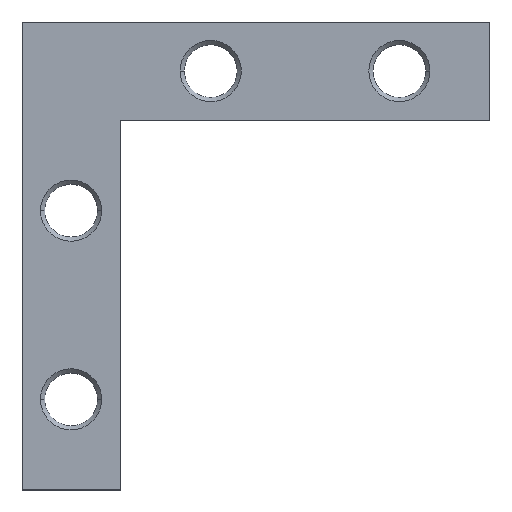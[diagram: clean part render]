
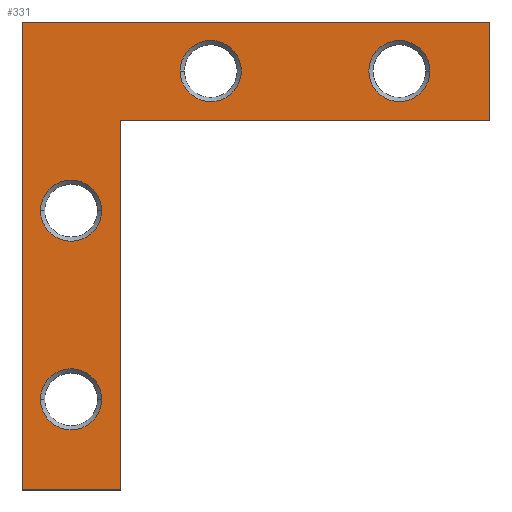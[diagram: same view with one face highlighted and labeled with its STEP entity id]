
A CAD part, top view. The second image highlights one B-rep face of the part: STEP entity #331.
In plain terms, the highlighted planar face has unit normal (0, 0, 1).
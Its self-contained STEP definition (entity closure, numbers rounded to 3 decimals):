
#2 = ORIENTED_EDGE ( 'NONE', *, *, #465, .T. ) ;
#13 = CARTESIAN_POINT ( 'NONE',  ( 0., -18.5, 6. ) ) ;
#19 = CARTESIAN_POINT ( 'NONE',  ( -6.5, -6.5, 6. ) ) ;
#26 = AXIS2_PLACEMENT_3D ( 'NONE', #418, #172, #483 ) ;
#28 = VECTOR ( 'NONE', #754, 1000. ) ;
#33 = DIRECTION ( 'NONE',  ( 1., 0., 0. ) ) ;
#37 = CARTESIAN_POINT ( 'NONE',  ( 14.45, 0., 6. ) ) ;
#38 = CARTESIAN_POINT ( 'NONE',  ( 18.5, 0., 6. ) ) ;
#46 = CARTESIAN_POINT ( 'NONE',  ( 47.55, 0., 6. ) ) ;
#47 = CARTESIAN_POINT ( 'NONE',  ( -6.5, -55.5, 6. ) ) ;
#64 = VERTEX_POINT ( 'NONE', #93 ) ;
#71 = DIRECTION ( 'NONE',  ( 0., -1., 0. ) ) ;
#72 = EDGE_LOOP ( 'NONE', ( #530, #516 ) ) ;
#93 = CARTESIAN_POINT ( 'NONE',  ( -6.5, -55.5, 6. ) ) ;
#99 = AXIS2_PLACEMENT_3D ( 'NONE', #605, #475, #412 ) ;
#100 = CARTESIAN_POINT ( 'NONE',  ( 43.5, 0., 6. ) ) ;
#121 = DIRECTION ( 'NONE',  ( 1., 0., 0. ) ) ;
#122 = DIRECTION ( 'NONE',  ( 0., 0., 1. ) ) ;
#134 = CARTESIAN_POINT ( 'NONE',  ( -6.5, -55.5, 6. ) ) ;
#142 = AXIS2_PLACEMENT_3D ( 'NONE', #457, #708, #166 ) ;
#144 = FACE_OUTER_BOUND ( 'NONE', #602, .T. ) ;
#149 = VERTEX_POINT ( 'NONE', #843 ) ;
#157 = VERTEX_POINT ( 'NONE', #839 ) ;
#166 = DIRECTION ( 'NONE',  ( 1., 0., 0. ) ) ;
#171 = EDGE_CURVE ( 'NONE', #716, #668, #592, .T. ) ;
#172 = DIRECTION ( 'NONE',  ( 0., 0., 1. ) ) ;
#174 = LINE ( 'NONE', #819, #816 ) ;
#176 = DIRECTION ( 'NONE',  ( 1., 0., 0. ) ) ;
#177 = DIRECTION ( 'NONE',  ( 1., 0., 0. ) ) ;
#183 = DIRECTION ( 'NONE',  ( 0., 0., 1. ) ) ;
#186 = EDGE_CURVE ( 'NONE', #502, #64, #700, .T. ) ;
#201 = ORIENTED_EDGE ( 'NONE', *, *, #430, .F. ) ;
#220 = VERTEX_POINT ( 'NONE', #789 ) ;
#238 = AXIS2_PLACEMENT_3D ( 'NONE', #550, #769, #177 ) ;
#249 = LINE ( 'NONE', #529, #28 ) ;
#253 = DIRECTION ( 'NONE',  ( 1., 0., 0. ) ) ;
#283 = ORIENTED_EDGE ( 'NONE', *, *, #618, .T. ) ;
#284 = AXIS2_PLACEMENT_3D ( 'NONE', #13, #307, #176 ) ;
#286 = CIRCLE ( 'NONE', #238, 4.05 ) ;
#288 = CIRCLE ( 'NONE', #390, 4.05 ) ;
#307 = DIRECTION ( 'NONE',  ( 0., 0., 1. ) ) ;
#324 = LINE ( 'NONE', #905, #876 ) ;
#327 = DIRECTION ( 'NONE',  ( 1., 0., 0. ) ) ;
#331 = ADVANCED_FACE ( 'NONE', ( #144, #883, #441, #378, #667 ), #368, .F. ) ;
#332 = CARTESIAN_POINT ( 'NONE',  ( 22.55, 0., 6. ) ) ;
#343 = CARTESIAN_POINT ( 'NONE',  ( 4.05, -18.5, 6. ) ) ;
#366 = ORIENTED_EDGE ( 'NONE', *, *, #171, .F. ) ;
#368 = PLANE ( 'NONE',  #645 ) ;
#378 = FACE_BOUND ( 'NONE', #552, .T. ) ;
#382 = EDGE_LOOP ( 'NONE', ( #847, #201 ) ) ;
#390 = AXIS2_PLACEMENT_3D ( 'NONE', #100, #391, #33 ) ;
#391 = DIRECTION ( 'NONE',  ( 0., 0., 1. ) ) ;
#402 = AXIS2_PLACEMENT_3D ( 'NONE', #687, #122, #327 ) ;
#409 = EDGE_CURVE ( 'NONE', #879, #149, #829, .T. ) ;
#412 = DIRECTION ( 'NONE',  ( 1., 0., 0. ) ) ;
#416 = EDGE_LOOP ( 'NONE', ( #734, #454 ) ) ;
#418 = CARTESIAN_POINT ( 'NONE',  ( 0., -43.5, 6. ) ) ;
#430 = EDGE_CURVE ( 'NONE', #790, #740, #908, .T. ) ;
#438 = VERTEX_POINT ( 'NONE', #772 ) ;
#441 = FACE_BOUND ( 'NONE', #72, .T. ) ;
#446 = EDGE_CURVE ( 'NONE', #668, #716, #545, .T. ) ;
#454 = ORIENTED_EDGE ( 'NONE', *, *, #504, .F. ) ;
#457 = CARTESIAN_POINT ( 'NONE',  ( 18.5, 0., 6. ) ) ;
#460 = ORIENTED_EDGE ( 'NONE', *, *, #805, .T. ) ;
#462 = DIRECTION ( 'NONE',  ( 0., 1., 0. ) ) ;
#465 = EDGE_CURVE ( 'NONE', #659, #502, #844, .T. ) ;
#473 = CARTESIAN_POINT ( 'NONE',  ( 4.05, -43.5, 6. ) ) ;
#475 = DIRECTION ( 'NONE',  ( 0., 0., 1. ) ) ;
#483 = DIRECTION ( 'NONE',  ( 1., 0., 0. ) ) ;
#493 = EDGE_CURVE ( 'NONE', #740, #790, #661, .T. ) ;
#494 = ORIENTED_EDGE ( 'NONE', *, *, #532, .T. ) ;
#495 = CARTESIAN_POINT ( 'NONE',  ( -4.05, -43.5, 6. ) ) ;
#497 = ORIENTED_EDGE ( 'NONE', *, *, #542, .T. ) ;
#500 = VECTOR ( 'NONE', #607, 1000. ) ;
#502 = VERTEX_POINT ( 'NONE', #636 ) ;
#504 = EDGE_CURVE ( 'NONE', #220, #731, #647, .T. ) ;
#516 = ORIENTED_EDGE ( 'NONE', *, *, #747, .F. ) ;
#529 = CARTESIAN_POINT ( 'NONE',  ( 55.5, 6.5, 6. ) ) ;
#530 = ORIENTED_EDGE ( 'NONE', *, *, #409, .F. ) ;
#532 = EDGE_CURVE ( 'NONE', #438, #659, #249, .T. ) ;
#536 = EDGE_CURVE ( 'NONE', #731, #220, #288, .T. ) ;
#542 = EDGE_CURVE ( 'NONE', #874, #438, #324, .T. ) ;
#545 = CIRCLE ( 'NONE', #142, 4.05 ) ;
#550 = CARTESIAN_POINT ( 'NONE',  ( 0., -18.5, 6. ) ) ;
#552 = EDGE_LOOP ( 'NONE', ( #366, #930 ) ) ;
#592 = CIRCLE ( 'NONE', #921, 4.05 ) ;
#602 = EDGE_LOOP ( 'NONE', ( #653, #460, #283, #497, #494, #2 ) ) ;
#605 = CARTESIAN_POINT ( 'NONE',  ( 43.5, 0., 6. ) ) ;
#607 = DIRECTION ( 'NONE',  ( 0., -1., 0. ) ) ;
#618 = EDGE_CURVE ( 'NONE', #157, #874, #174, .T. ) ;
#627 = CARTESIAN_POINT ( 'NONE',  ( 55.5, 6.5, 6. ) ) ;
#636 = CARTESIAN_POINT ( 'NONE',  ( -6.5, 6.5, 6. ) ) ;
#645 = AXIS2_PLACEMENT_3D ( 'NONE', #19, #802, #71 ) ;
#647 = CIRCLE ( 'NONE', #99, 4.05 ) ;
#653 = ORIENTED_EDGE ( 'NONE', *, *, #186, .T. ) ;
#659 = VERTEX_POINT ( 'NONE', #627 ) ;
#661 = CIRCLE ( 'NONE', #402, 4.05 ) ;
#667 = FACE_BOUND ( 'NONE', #416, .T. ) ;
#668 = VERTEX_POINT ( 'NONE', #37 ) ;
#687 = CARTESIAN_POINT ( 'NONE',  ( 0., -43.5, 6. ) ) ;
#700 = LINE ( 'NONE', #47, #500 ) ;
#708 = DIRECTION ( 'NONE',  ( 0., 0., 1. ) ) ;
#716 = VERTEX_POINT ( 'NONE', #332 ) ;
#720 = LINE ( 'NONE', #134, #875 ) ;
#731 = VERTEX_POINT ( 'NONE', #46 ) ;
#734 = ORIENTED_EDGE ( 'NONE', *, *, #536, .F. ) ;
#740 = VERTEX_POINT ( 'NONE', #473 ) ;
#747 = EDGE_CURVE ( 'NONE', #149, #879, #286, .T. ) ;
#754 = DIRECTION ( 'NONE',  ( 0., 1., 0. ) ) ;
#769 = DIRECTION ( 'NONE',  ( 0., 0., 1. ) ) ;
#772 = CARTESIAN_POINT ( 'NONE',  ( 55.5, -6.5, 6. ) ) ;
#774 = DIRECTION ( 'NONE',  ( 1., 0., 0. ) ) ;
#789 = CARTESIAN_POINT ( 'NONE',  ( 39.45, 0., 6. ) ) ;
#790 = VERTEX_POINT ( 'NONE', #495 ) ;
#798 = VECTOR ( 'NONE', #911, 1000. ) ;
#802 = DIRECTION ( 'NONE',  ( 0., 0., -1. ) ) ;
#805 = EDGE_CURVE ( 'NONE', #64, #157, #720, .T. ) ;
#816 = VECTOR ( 'NONE', #462, 1000. ) ;
#819 = CARTESIAN_POINT ( 'NONE',  ( 6.5, -55.5, 6. ) ) ;
#829 = CIRCLE ( 'NONE', #284, 4.05 ) ;
#831 = CARTESIAN_POINT ( 'NONE',  ( -6.5, 6.5, 6. ) ) ;
#839 = CARTESIAN_POINT ( 'NONE',  ( 6.5, -55.5, 6. ) ) ;
#843 = CARTESIAN_POINT ( 'NONE',  ( -4.05, -18.5, 6. ) ) ;
#844 = LINE ( 'NONE', #831, #798 ) ;
#847 = ORIENTED_EDGE ( 'NONE', *, *, #493, .F. ) ;
#871 = CARTESIAN_POINT ( 'NONE',  ( 6.5, -6.5, 6. ) ) ;
#874 = VERTEX_POINT ( 'NONE', #871 ) ;
#875 = VECTOR ( 'NONE', #774, 1000. ) ;
#876 = VECTOR ( 'NONE', #253, 1000. ) ;
#879 = VERTEX_POINT ( 'NONE', #343 ) ;
#883 = FACE_BOUND ( 'NONE', #382, .T. ) ;
#905 = CARTESIAN_POINT ( 'NONE',  ( 6.5, -6.5, 6. ) ) ;
#908 = CIRCLE ( 'NONE', #26, 4.05 ) ;
#911 = DIRECTION ( 'NONE',  ( -1., 0., 0. ) ) ;
#921 = AXIS2_PLACEMENT_3D ( 'NONE', #38, #183, #121 ) ;
#930 = ORIENTED_EDGE ( 'NONE', *, *, #446, .F. ) ;
